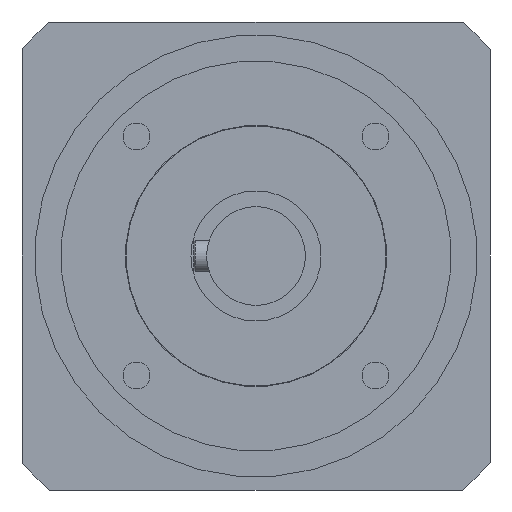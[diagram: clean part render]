
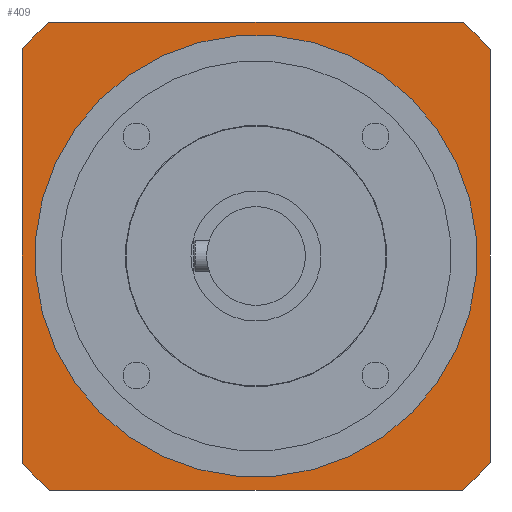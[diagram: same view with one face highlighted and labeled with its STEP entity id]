
A CAD part, left-side view. The second image highlights one B-rep face of the part: STEP entity #409.
In plain terms, the highlighted planar face has unit normal (-1, 0, 0).
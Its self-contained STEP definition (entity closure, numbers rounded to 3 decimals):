
#140=LINE('',#2397,#198);
#141=LINE('',#2401,#199);
#142=LINE('',#2405,#200);
#143=LINE('',#2409,#201);
#198=VECTOR('',#1935,1.);
#199=VECTOR('',#1938,1.);
#200=VECTOR('',#1941,1.);
#201=VECTOR('',#1944,1.);
#264=FACE_OUTER_BOUND('',#736,.T.);
#409=ADVANCED_FACE('',(#264),#468,.T.);
#468=PLANE('',#1567);
#736=EDGE_LOOP('',(#990,#991,#992,#993,#994,#995,#996,#997));
#990=ORIENTED_EDGE('',*,*,#1298,.F.);
#991=ORIENTED_EDGE('',*,*,#1299,.F.);
#992=ORIENTED_EDGE('',*,*,#1300,.F.);
#993=ORIENTED_EDGE('',*,*,#1301,.F.);
#994=ORIENTED_EDGE('',*,*,#1302,.F.);
#995=ORIENTED_EDGE('',*,*,#1303,.F.);
#996=ORIENTED_EDGE('',*,*,#1304,.F.);
#997=ORIENTED_EDGE('',*,*,#1305,.F.);
#1156=VERTEX_POINT('',#2395);
#1157=VERTEX_POINT('',#2396);
#1158=VERTEX_POINT('',#2398);
#1159=VERTEX_POINT('',#2400);
#1160=VERTEX_POINT('',#2402);
#1161=VERTEX_POINT('',#2404);
#1162=VERTEX_POINT('',#2406);
#1163=VERTEX_POINT('',#2408);
#1298=EDGE_CURVE('',#1156,#1157,#1400,.T.);
#1299=EDGE_CURVE('',#1158,#1156,#140,.T.);
#1300=EDGE_CURVE('',#1159,#1158,#1401,.T.);
#1301=EDGE_CURVE('',#1160,#1159,#141,.T.);
#1302=EDGE_CURVE('',#1161,#1160,#1402,.T.);
#1303=EDGE_CURVE('',#1162,#1161,#142,.T.);
#1304=EDGE_CURVE('',#1163,#1162,#1403,.T.);
#1305=EDGE_CURVE('',#1157,#1163,#143,.T.);
#1400=CIRCLE('',#1563,60.);
#1401=CIRCLE('',#1564,60.);
#1402=CIRCLE('',#1565,60.);
#1403=CIRCLE('',#1566,60.);
#1563=AXIS2_PLACEMENT_3D('',#2394,#1933,#1934);
#1564=AXIS2_PLACEMENT_3D('',#2399,#1936,#1937);
#1565=AXIS2_PLACEMENT_3D('',#2403,#1939,#1940);
#1566=AXIS2_PLACEMENT_3D('',#2407,#1942,#1943);
#1567=AXIS2_PLACEMENT_3D('',#2410,#1945,#1946);
#1933=DIRECTION('',(1.,0.,0.));
#1934=DIRECTION('',(0.,1.,0.));
#1935=DIRECTION('',(0.,0.,1.));
#1936=DIRECTION('',(1.,0.,0.));
#1937=DIRECTION('',(0.,0.,-1.));
#1938=DIRECTION('',(0.,1.,0.));
#1939=DIRECTION('',(1.,0.,0.));
#1940=DIRECTION('',(0.,-1.,0.));
#1941=DIRECTION('',(0.,0.,-1.));
#1942=DIRECTION('',(1.,0.,0.));
#1943=DIRECTION('',(0.,0.,1.));
#1944=DIRECTION('',(0.,-1.,0.));
#1945=DIRECTION('',(-1.,0.,0.));
#1946=DIRECTION('',(0.,0.,-1.));
#2394=CARTESIAN_POINT('',(0.,0.,0.));
#2395=CARTESIAN_POINT('',(0.,45.,39.686));
#2396=CARTESIAN_POINT('',(0.,39.686,45.));
#2397=CARTESIAN_POINT('',(0.,45.,0.));
#2398=CARTESIAN_POINT('',(0.,45.,-39.686));
#2399=CARTESIAN_POINT('',(0.,0.,0.));
#2400=CARTESIAN_POINT('',(0.,39.686,-45.));
#2401=CARTESIAN_POINT('',(0.,0.,-45.));
#2402=CARTESIAN_POINT('',(0.,-39.686,-45.));
#2403=CARTESIAN_POINT('',(0.,0.,0.));
#2404=CARTESIAN_POINT('',(0.,-45.,-39.686));
#2405=CARTESIAN_POINT('',(0.,-45.,0.));
#2406=CARTESIAN_POINT('',(0.,-45.,39.686));
#2407=CARTESIAN_POINT('',(0.,0.,0.));
#2408=CARTESIAN_POINT('',(0.,-39.686,45.));
#2409=CARTESIAN_POINT('',(0.,0.,45.));
#2410=CARTESIAN_POINT('',(0.,0.,0.));
